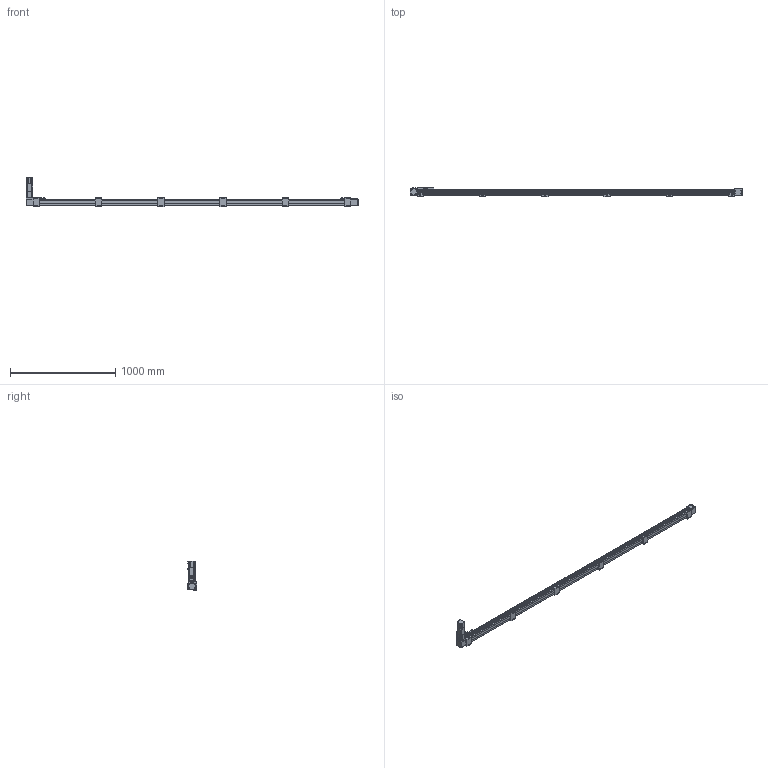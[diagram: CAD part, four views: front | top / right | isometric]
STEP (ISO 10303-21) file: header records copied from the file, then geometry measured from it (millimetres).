
FILE_DESCRIPTION(/* description */ ('STEP AP203'),/* implementation_level */ '2;1');
FILE_NAME(/* name */ 'SK60-P13-S2850-BL-T40-C1-N(0)',/* time_stamp */ '2023-04-06T03:38:19+02:00',/* author */ ('License CC BY-ND 4.0'),/* organization */ ('CADENAS'),/* preprocessor_version */ 'ST-DEVELOPER v19.3',/* originating_system */ 'PARTsolutions',/* authorisation */ ' ');
FILE_SCHEMA (('CONFIG_CONTROL_DESIGN'));
Length unit declared in the file: millimetre
Products named in the file (11): SK60-P13-S2850-BL-T40-C1-N(0); PSC140-sensor; SK60-S450_seat; SK60-S450-BL-C1_slider; SK60_body3; SK60_body6; SK60-BL_body2; T40-p1; SK60_body5; SK60_body4; SK60-S2850-BL-C1_body
Assembly tree (21 placements, depth 2):
  SK60-P13-S2850-BL-T40-C1-N(0)
    PSC140-sensor  x3
    SK60-S450_seat  x6
    SK60-S450-BL-C1_slider
    SK60_body3  x3
    SK60_body6  x2
    SK60-BL_body2  x2
    T40-p1
    SK60_body5
    SK60_body4
    SK60-S2850-BL-C1_body
Bounding box: 3150 x 90 x 278.2 mm (x, y, z)
Volume: 11294422 mm3; surface area: 1363361.4 mm2
Topology: 21 solids, 25 shells, 1010 faces, 2501 edges, 1650 vertices
Faces by surface type: plane 640, cylinder 330, cone 38, torus 2
Full cylindrical faces by diameter (mm): 2.8 x3, 3.3 x4, 4.2 x8, 4.5 x26, 4.6 x3, 4.917 x32, 5 x2, 5.478 x4, 5.5 x35, 6.5 x12, 8 x4, 8.5 x4, 9.988 x4, 10 x24, 13.556 x1, 14 x1, 14.586 x1, 19.692 x1, 38.432 x2, 43 x1, 44 x3, 47 x2, 50 x2
Entity records: 19403 total; most frequent: DIRECTION 3300, CARTESIAN_POINT 3293, ORIENTED_EDGE 3050, EDGE_CURVE 1525, AXIS2_PLACEMENT_3D 1104, LINE 1092, VECTOR 1092, VERTEX_POINT 1077
